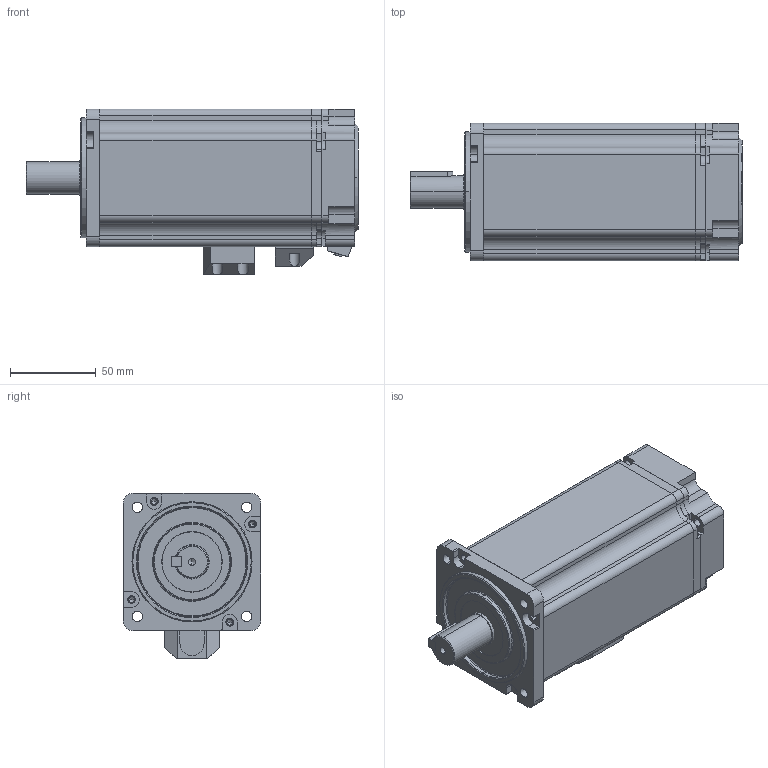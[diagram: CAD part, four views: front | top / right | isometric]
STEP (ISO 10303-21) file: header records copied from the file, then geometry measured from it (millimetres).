
FILE_DESCRIPTION (( 'STEP AP203' ), '1' );
FILE_NAME ('DSMD-08-1030A-G341-N.STEP', '2023-09-07T07:00:44', ( 'Admin' ), ( '' ), 'SwSTEP 2.0', 'SolidWorks 2018', '' );
FILE_SCHEMA (( 'CONFIG_CONTROL_DESIGN' ));
Length unit declared in the file: millimetre
Products named in the file (1): DSMD-08-1030A-G341-N
Bounding box: 193.5 x 80.2 x 96.7 mm (x, y, z)
Volume: 283302.7 mm3; surface area: 157470.9 mm2
Topology: 9 solids, 9 shells, 889 faces, 2312 edges, 1440 vertices
Faces by surface type: cylinder 393, plane 292, bspline 123, cone 81
Entity records: 29912 total; most frequent: CARTESIAN_POINT 8137, DIRECTION 4657, ORIENTED_EDGE 4516, EDGE_CURVE 2258, AXIS2_PLACEMENT_3D 1796, VERTEX_POINT 1438, VECTOR 1065, LINE 1065
